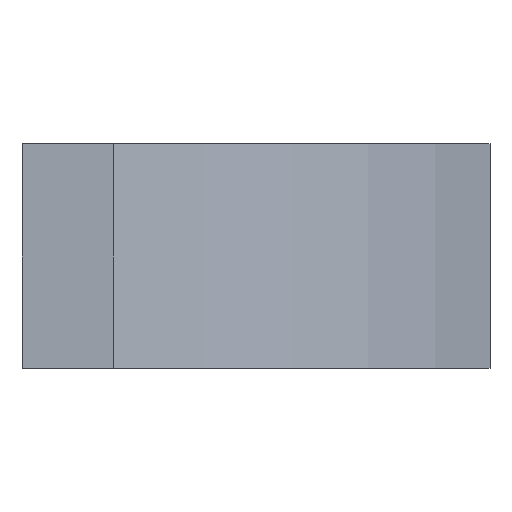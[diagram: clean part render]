
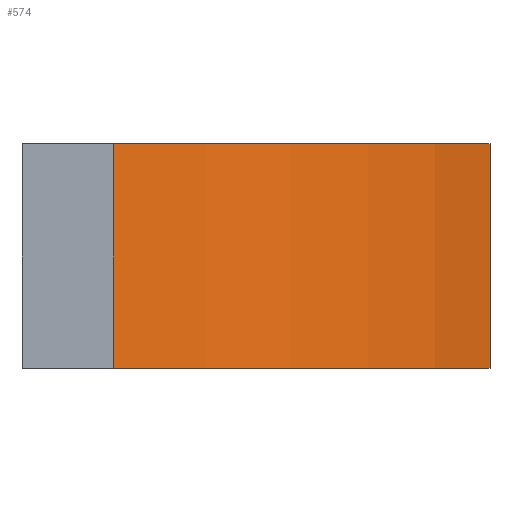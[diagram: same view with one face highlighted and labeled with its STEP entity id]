
A CAD part, left-side view. The second image highlights one B-rep face of the part: STEP entity #574.
In plain terms, the highlighted cylindrical face has radius 35.56 mm (diameter 71.12 mm), a partial arc.
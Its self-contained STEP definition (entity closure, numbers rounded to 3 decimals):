
#21=CYLINDRICAL_SURFACE('',#654,35.56);
#53=FACE_OUTER_BOUND('',#88,.T.);
#88=EDGE_LOOP('',(#460,#461,#462,#463));
#111=CIRCLE('',#618,35.56);
#130=CIRCLE('',#638,35.56);
#169=LINE('',#965,#217);
#170=LINE('',#967,#218);
#217=VECTOR('',#784,10.);
#218=VECTOR('',#787,10.);
#245=VERTEX_POINT('',#872);
#246=VERTEX_POINT('',#874);
#271=VERTEX_POINT('',#925);
#272=VERTEX_POINT('',#927);
#301=EDGE_CURVE('',#245,#246,#111,.T.);
#327=EDGE_CURVE('',#272,#271,#130,.T.);
#347=EDGE_CURVE('',#271,#246,#169,.T.);
#348=EDGE_CURVE('',#245,#272,#170,.T.);
#460=ORIENTED_EDGE('',*,*,#347,.T.);
#461=ORIENTED_EDGE('',*,*,#301,.F.);
#462=ORIENTED_EDGE('',*,*,#348,.T.);
#463=ORIENTED_EDGE('',*,*,#327,.T.);
#574=ADVANCED_FACE('',(#53),#21,.T.);
#618=AXIS2_PLACEMENT_3D('',#875,#691,#692);
#638=AXIS2_PLACEMENT_3D('',#928,#738,#739);
#654=AXIS2_PLACEMENT_3D('',#966,#785,#786);
#691=DIRECTION('center_axis',(0.,0.,
-1.));
#692=DIRECTION('ref_axis',(-1.,0.,0.));
#738=DIRECTION('center_axis',(0.,0.,
-1.));
#739=DIRECTION('ref_axis',(-1.,0.,0.));
#784=DIRECTION('',(0.,0.,-1.));
#785=DIRECTION('center_axis',(0.,0.,
-1.));
#786=DIRECTION('ref_axis',(-1.,0.,0.));
#787=DIRECTION('',(0.,0.,1.));
#872=CARTESIAN_POINT('',(-17.942,-30.702,-20.05));
#874=CARTESIAN_POINT('',(-35.05,-6.,-20.05));
#875=CARTESIAN_POINT('Origin',(0.,0.,
-20.05));
#925=CARTESIAN_POINT('',(-35.05,-6.,-5.35));
#927=CARTESIAN_POINT('',(-17.942,-30.702,-5.35));
#928=CARTESIAN_POINT('Origin',(0.,0.,
-5.35));
#965=CARTESIAN_POINT('',(-35.05,-6.,-6.35));
#966=CARTESIAN_POINT('Origin',(0.,0.,
-6.35));
#967=CARTESIAN_POINT('',(-17.942,-30.702,-6.35));
